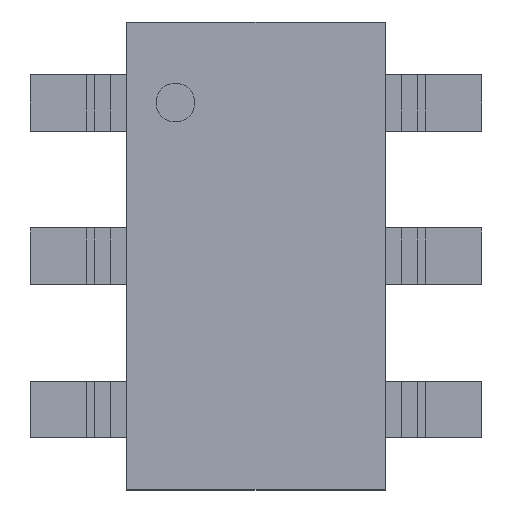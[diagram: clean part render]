
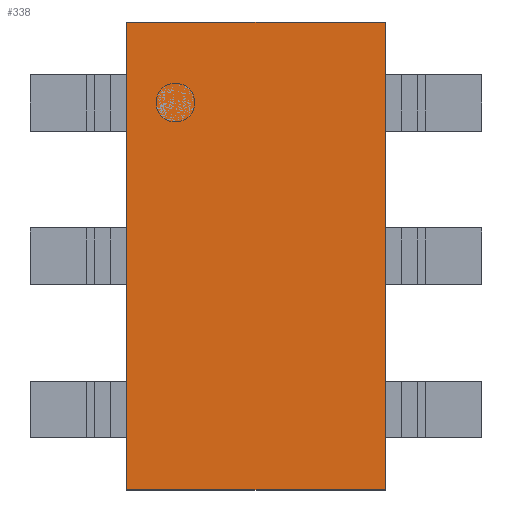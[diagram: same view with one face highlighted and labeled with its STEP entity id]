
A CAD part, top view. The second image highlights one B-rep face of the part: STEP entity #338.
In plain terms, the highlighted planar face has unit normal (0, 0, 1).
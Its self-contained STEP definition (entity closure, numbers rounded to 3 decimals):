
#24 = VERTEX_POINT('',#25);
#25 = CARTESIAN_POINT('',(-0.8,-1.45,1.45));
#32 = PLANE('',#33);
#33 = AXIS2_PLACEMENT_3D('',#34,#35,#36);
#34 = CARTESIAN_POINT('',(-0.8,-1.45,0.15));
#35 = DIRECTION('',(1.,0.,-0.));
#36 = DIRECTION('',(0.,0.,1.));
#44 = PLANE('',#45);
#45 = AXIS2_PLACEMENT_3D('',#46,#47,#48);
#46 = CARTESIAN_POINT('',(-0.8,-1.45,0.15));
#47 = DIRECTION('',(-0.,1.,0.));
#48 = DIRECTION('',(0.,0.,1.));
#85 = VERTEX_POINT('',#86);
#86 = CARTESIAN_POINT('',(-0.8,1.45,1.45));
#100 = PLANE('',#101);
#101 = AXIS2_PLACEMENT_3D('',#102,#103,#104);
#102 = CARTESIAN_POINT('',(-0.8,1.45,0.15));
#103 = DIRECTION('',(-0.,1.,0.));
#104 = DIRECTION('',(0.,0.,1.));
#112 = EDGE_CURVE('',#24,#85,#113,.T.);
#113 = SURFACE_CURVE('',#114,(#118,#125),.PCURVE_S1.);
#114 = LINE('',#115,#116);
#115 = CARTESIAN_POINT('',(-0.8,-1.45,1.45));
#116 = VECTOR('',#117,1.);
#117 = DIRECTION('',(-0.,1.,0.));
#118 = PCURVE('',#32,#119);
#119 = DEFINITIONAL_REPRESENTATION('',(#120),#124);
#120 = LINE('',#121,#122);
#121 = CARTESIAN_POINT('',(1.3,0.));
#122 = VECTOR('',#123,1.);
#123 = DIRECTION('',(0.,-1.));
#124 = ( GEOMETRIC_REPRESENTATION_CONTEXT(2) 
PARAMETRIC_REPRESENTATION_CONTEXT() REPRESENTATION_CONTEXT('2D SPACE',''
  ) );
#125 = PCURVE('',#126,#131);
#126 = PLANE('',#127);
#127 = AXIS2_PLACEMENT_3D('',#128,#129,#130);
#128 = CARTESIAN_POINT('',(-0.8,-1.45,1.45));
#129 = DIRECTION('',(0.,0.,1.));
#130 = DIRECTION('',(1.,0.,-0.));
#131 = DEFINITIONAL_REPRESENTATION('',(#132),#136);
#132 = LINE('',#133,#134);
#133 = CARTESIAN_POINT('',(0.,0.));
#134 = VECTOR('',#135,1.);
#135 = DIRECTION('',(0.,1.));
#136 = ( GEOMETRIC_REPRESENTATION_CONTEXT(2) 
PARAMETRIC_REPRESENTATION_CONTEXT() REPRESENTATION_CONTEXT('2D SPACE',''
  ) );
#144 = VERTEX_POINT('',#145);
#145 = CARTESIAN_POINT('',(0.8,-1.45,1.45));
#152 = PLANE('',#153);
#153 = AXIS2_PLACEMENT_3D('',#154,#155,#156);
#154 = CARTESIAN_POINT('',(0.8,-1.45,0.15));
#155 = DIRECTION('',(1.,0.,-0.));
#156 = DIRECTION('',(0.,0.,1.));
#195 = VERTEX_POINT('',#196);
#196 = CARTESIAN_POINT('',(0.8,1.45,1.45));
#217 = EDGE_CURVE('',#144,#195,#218,.T.);
#218 = SURFACE_CURVE('',#219,(#223,#230),.PCURVE_S1.);
#219 = LINE('',#220,#221);
#220 = CARTESIAN_POINT('',(0.8,-1.45,1.45));
#221 = VECTOR('',#222,1.);
#222 = DIRECTION('',(-0.,1.,0.));
#223 = PCURVE('',#152,#224);
#224 = DEFINITIONAL_REPRESENTATION('',(#225),#229);
#225 = LINE('',#226,#227);
#226 = CARTESIAN_POINT('',(1.3,0.));
#227 = VECTOR('',#228,1.);
#228 = DIRECTION('',(0.,-1.));
#229 = ( GEOMETRIC_REPRESENTATION_CONTEXT(2) 
PARAMETRIC_REPRESENTATION_CONTEXT() REPRESENTATION_CONTEXT('2D SPACE',''
  ) );
#230 = PCURVE('',#126,#231);
#231 = DEFINITIONAL_REPRESENTATION('',(#232),#236);
#232 = LINE('',#233,#234);
#233 = CARTESIAN_POINT('',(1.6,0.));
#234 = VECTOR('',#235,1.);
#235 = DIRECTION('',(0.,1.));
#236 = ( GEOMETRIC_REPRESENTATION_CONTEXT(2) 
PARAMETRIC_REPRESENTATION_CONTEXT() REPRESENTATION_CONTEXT('2D SPACE',''
  ) );
#263 = EDGE_CURVE('',#24,#144,#264,.T.);
#264 = SURFACE_CURVE('',#265,(#269,#276),.PCURVE_S1.);
#265 = LINE('',#266,#267);
#266 = CARTESIAN_POINT('',(-0.8,-1.45,1.45));
#267 = VECTOR('',#268,1.);
#268 = DIRECTION('',(1.,0.,-0.));
#269 = PCURVE('',#44,#270);
#270 = DEFINITIONAL_REPRESENTATION('',(#271),#275);
#271 = LINE('',#272,#273);
#272 = CARTESIAN_POINT('',(1.3,0.));
#273 = VECTOR('',#274,1.);
#274 = DIRECTION('',(0.,1.));
#275 = ( GEOMETRIC_REPRESENTATION_CONTEXT(2) 
PARAMETRIC_REPRESENTATION_CONTEXT() REPRESENTATION_CONTEXT('2D SPACE',''
  ) );
#276 = PCURVE('',#126,#277);
#277 = DEFINITIONAL_REPRESENTATION('',(#278),#282);
#278 = LINE('',#279,#280);
#279 = CARTESIAN_POINT('',(0.,0.));
#280 = VECTOR('',#281,1.);
#281 = DIRECTION('',(1.,0.));
#282 = ( GEOMETRIC_REPRESENTATION_CONTEXT(2) 
PARAMETRIC_REPRESENTATION_CONTEXT() REPRESENTATION_CONTEXT('2D SPACE',''
  ) );
#310 = EDGE_CURVE('',#85,#195,#311,.T.);
#311 = SURFACE_CURVE('',#312,(#316,#323),.PCURVE_S1.);
#312 = LINE('',#313,#314);
#313 = CARTESIAN_POINT('',(-0.8,1.45,1.45));
#314 = VECTOR('',#315,1.);
#315 = DIRECTION('',(1.,0.,-0.));
#316 = PCURVE('',#100,#317);
#317 = DEFINITIONAL_REPRESENTATION('',(#318),#322);
#318 = LINE('',#319,#320);
#319 = CARTESIAN_POINT('',(1.3,0.));
#320 = VECTOR('',#321,1.);
#321 = DIRECTION('',(0.,1.));
#322 = ( GEOMETRIC_REPRESENTATION_CONTEXT(2) 
PARAMETRIC_REPRESENTATION_CONTEXT() REPRESENTATION_CONTEXT('2D SPACE',''
  ) );
#323 = PCURVE('',#126,#324);
#324 = DEFINITIONAL_REPRESENTATION('',(#325),#329);
#325 = LINE('',#326,#327);
#326 = CARTESIAN_POINT('',(0.,2.9));
#327 = VECTOR('',#328,1.);
#328 = DIRECTION('',(1.,0.));
#329 = ( GEOMETRIC_REPRESENTATION_CONTEXT(2) 
PARAMETRIC_REPRESENTATION_CONTEXT() REPRESENTATION_CONTEXT('2D SPACE',''
  ) );
#338 = ADVANCED_FACE('',(#339),#126,.T.);
#339 = FACE_BOUND('',#340,.T.);
#340 = EDGE_LOOP('',(#341,#342,#343,#344));
#341 = ORIENTED_EDGE('',*,*,#112,.F.);
#342 = ORIENTED_EDGE('',*,*,#263,.T.);
#343 = ORIENTED_EDGE('',*,*,#217,.T.);
#344 = ORIENTED_EDGE('',*,*,#310,.F.);
